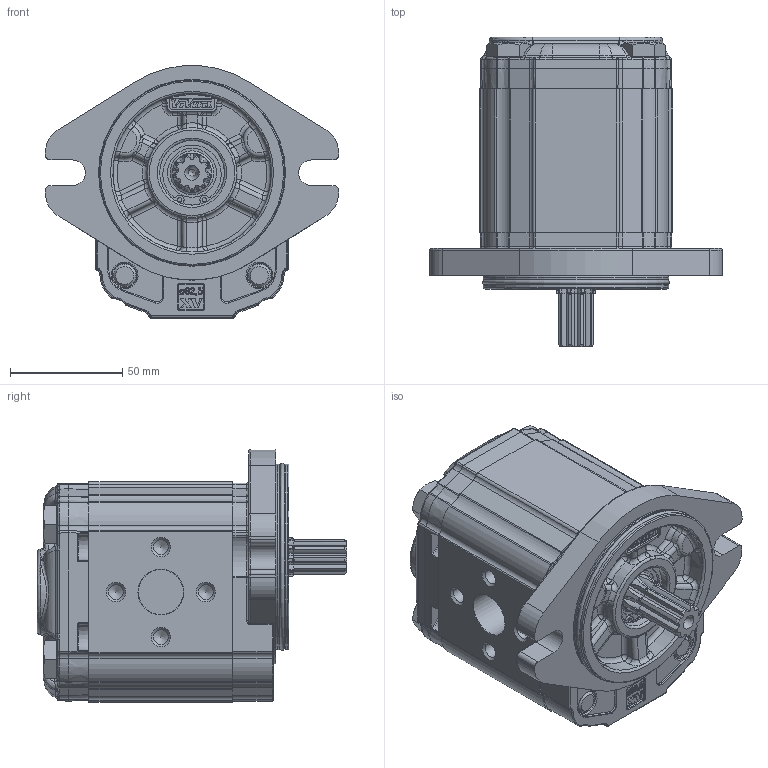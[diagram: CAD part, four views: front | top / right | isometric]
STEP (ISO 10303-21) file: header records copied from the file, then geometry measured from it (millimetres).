
FILE_DESCRIPTION(/* description */ ('Unknown'),/* implementation_level */ '2;1');
FILE_NAME(/* name */ 'X2P4952IPOA',/* time_stamp */ '2020-09-21T11:31:21+02:00',/* author */ ('Unknown'),/* organization */ ('Unknown'),/* preprocessor_version */ 'ST-DEVELOPER v16.7',/* originating_system */ 'DEX',/* authorisation */ $);
FILE_SCHEMA (('AUTOMOTIVE_DESIGN {1 0 10303 214 3 1 1}'));
Products named in the file (5): X2P4952IPOA; X2P52; 2I; X2POH64; XP219-A
Assembly tree (4 placements, depth 2):
  X2P4952IPOA
    X2P52
    2I
    X2POH64
    XP219-A
Bounding box: 130.38 x 137.7 x 112.3 mm (x, y, z)
Volume: 780036.2 mm3; surface area: 118570.9 mm2
Topology: 4 solids, 5 shells, 2223 faces, 5483 edges, 3330 vertices
Faces by surface type: cylinder 661, plane 591, bspline 570, torus 247, cone 116, sphere 38
Full cylindrical faces by diameter (mm): 2 x2, 4.917 x4, 6.647 x4, 10 x4, 10.5 x4, 11 x2, 11.5 x4, 13.5 x1, 16 x4, 17.42 x1, 17.48 x2, 18.724 x1, 20 x1, 20.595 x1, 21.741 x1, 25.834 x1, 28.56 x1, 28.57 x1, 28.8 x1, 30.4 x1, 79.6 x2, 82.5 x2
Entity records: 101724 total; most frequent: CARTESIAN_POINT 39174, ORIENTED_EDGE 10532, DIRECTION 8859, EDGE_CURVE 5266, AXIS2_PLACEMENT_3D 3383, VERTEX_POINT 3266, FACE_BOUND 2446, EDGE_LOOP 2436
